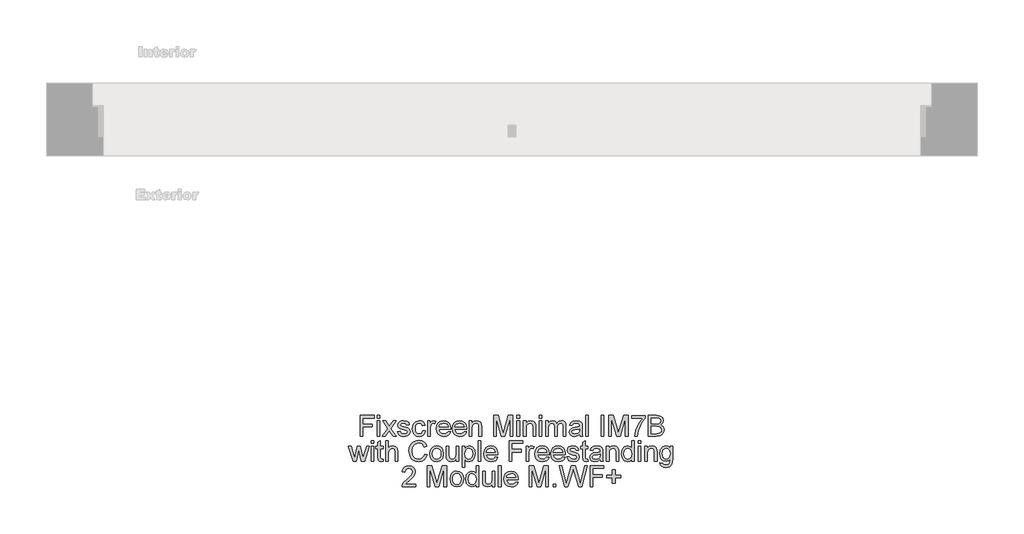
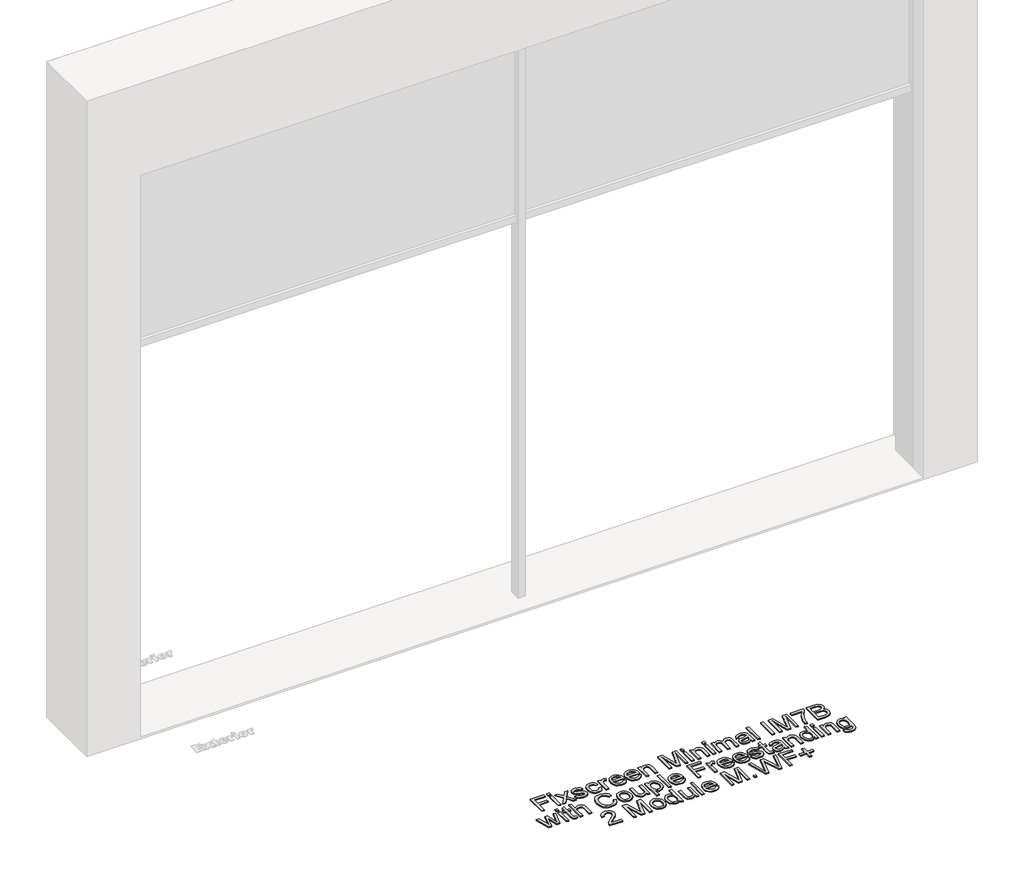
# One storey, part 10 of 14: 1 proxy.
"""IFC4 building model written with IfcOpenShell, lengths in millimetres."""

from ifc_helpers import new_model, si_unit, origin, origin_with_axes, place, context, project, spatial, polyline, outline, extrude, element, save

model = new_model("IFC4")

# Units and contexts
model_context = context("Model", 3, world=origin())
ifc_project = project(units=[si_unit("LENGTHUNIT", "METRE", prefix="MILLI")], contexts=[model_context])

# Site, building, storey
site = spatial("IfcSite", under=ifc_project)
building = spatial("IfcBuilding", under=site)
storey = spatial("IfcBuildingStorey", under=building, Name="Fixscreen Mini CF Overview Top", Elevation=0.0)

# Proxy
placement = place(None, origin())
element("IfcBuildingElementProxy", 1, Name="100mm Arial", ObjectType="100mm Arial", at=placement, inside=storey, context=model_context, shape_type="SweptSolid", body=[
    extrude(outline(polyline([(-8278.0016638, 14159.3437823), (-8278.0016638, 14259.8000924), (-8210.5075804, 14259.8000924), (-8210.5075804, 14247.2430536), (-8265.444625, 14247.2430536), (-8265.444625, 14217.4200866), (-8218.3557296, 14217.4200866), (-8218.3557296, 14204.8630478), (-8265.444625, 14204.8630478), (-8265.444625, 14159.3437823), (-8278.0016638, 14159.3437823)])), origin_with_axes(), (0.0, 0.0, 1.0), 5.0),
    extrude(outline(polyline([(-8194.811282, 14159.3437823), (-8194.811282, 14233.116385), (-8182.2542432, 14233.116385), (-8182.2542432, 14159.3437823), (-8194.811282, 14159.3437823)])), origin_with_axes(), (0.0, 0.0, 1.0), 5.0),
    extrude(outline(polyline([(-8194.811282, 14247.2430536), (-8194.811282, 14259.8000924), (-8182.2542432, 14259.8000924), (-8182.2542432, 14247.2430536), (-8194.811282, 14247.2430536)])), origin_with_axes(), (0.0, 0.0, 1.0), 5.0),
    extrude(outline(polyline([(-8171.2668343, 14159.3437823), (-8144.4359741, 14196.4262874), (-8169.6972044, 14233.116385), (-8154.5895171, 14233.116385), (-8142.4003604, 14215.4580493), (-8136.7104522, 14207.1193907), (-8131.7808334, 14213.9374703), (-8117.8994195, 14233.116385), (-8102.7917322, 14233.116385), (-8129.3282868, 14196.4262874), (-8103.7727509, 14159.3437823), (-8118.8804381, 14159.3437823), (-8134.2579055, 14181.6374312), (-8137.0783342, 14185.7086586), (-8156.159147, 14159.3437823), (-8171.2668343, 14159.3437823)])), origin_with_axes(), (0.0, 0.0, 1.0), 5.0),
    extrude(outline(polyline([(-8097.4942315, 14181.3186001), (-8084.9371927, 14182.88823), (-8079.1246572, 14173.5685527), (-8065.807329, 14170.3311912), (-8053.0050355, 14173.2987726), (-8048.8357063, 14180.2640051), (-8053.029561, 14185.9048623), (-8065.9544818, 14189.4855804), (-8084.8636163, 14195.6292097), (-8093.1164358, 14202.8029086), (-8095.9246016, 14212.9319262), (-8093.6682587, 14222.2883916), (-8087.5123667, 14229.4375651), (-8079.5293274, 14233.1531732), (-8068.7258595, 14234.6860149), (-8053.4464939, 14232.2212055), (-8043.7344093, 14225.5502787), (-8039.4179272, 14214.2808269), (-8051.974966, 14212.711197), (-8056.6961182, 14219.6396413), (-8067.7448408, 14222.1289761), (-8079.7623193, 14219.7500059), (-8083.3675629, 14214.2072505), (-8081.8715094, 14210.552956), (-8077.1871454, 14207.7815783), (-8066.3714147, 14205.1083025), (-8047.9405267, 14199.1976651), (-8039.381139, 14192.5022128), (-8036.2786675, 14181.5883802), (-8039.9206992, 14169.5709017), (-8050.4298616, 14160.8520984), (-8065.9790072, 14157.7741524), (-8078.6402792, 14159.2579431), (-8087.8802487, 14163.7093153), (-8094.0484035, 14171.0792179), (-8097.4942315, 14181.3186001)])), origin_with_axes(), (0.0, 0.0, 1.0), 5.0),
    extrude(outline(polyline([(-7975.0631035, 14186.0274896), (-7962.5060647, 14184.4578598), (-7966.0070751, 14173.2895756), (-7972.5860314, 14164.8497495), (-7981.6236657, 14159.5430517), (-7992.5007101, 14157.7741524), (-8005.8578922, 14160.2420275), (-8016.3026752, 14167.6456526), (-8023.0441127, 14179.6600654), (-8025.2912586, 14195.9603035), (-8021.4530231, 14216.8192126), (-8009.7543756, 14230.22238), (-7992.6723883, 14234.6860149), (-7982.0620585, 14233.1531732), (-7973.5793128, 14228.5546483), (-7967.4939314, 14221.1356947), (-7964.0756946, 14211.1415672), (-7976.6327333, 14209.5719373), (-7982.4575316, 14218.9774537), (-7992.5742865, 14222.1289761), (-8000.6891501, 14220.5777404), (-8007.1301507, 14215.9240331), (-8011.3332025, 14207.9164684), (-8012.7342198, 14196.30366), (-8011.3638594, 14184.5345019), (-8007.2527781, 14176.499346), (-8000.9282734, 14171.8732299), (-7992.917643, 14170.3311912), (-7981.0841055, 14174.1816894), (-7975.0631035, 14186.0274896)])), origin_with_axes(), (0.0, 0.0, 1.0), 5.0),
    extrude(outline(polyline([(-7951.5186558, 14159.3437823), (-7951.5186558, 14233.116385), (-7940.5312469, 14233.116385), (-7940.5312469, 14222.2025525), (-7932.7321486, 14232.2579937), (-7924.8839994, 14234.6860149), (-7912.2779097, 14230.8109912), (-7916.4717644, 14219.5538021), (-7925.3009323, 14222.1289761), (-7932.4010548, 14219.651904), (-7936.9260033, 14212.7847734), (-7938.961617, 14198.1185446), (-7938.961617, 14159.3437823), (-7951.5186558, 14159.3437823)])), origin_with_axes(), (0.0, 0.0, 1.0), 5.0),
    extrude(outline(polyline([(-7852.7791283, 14181.3186001), (-7840.4673442, 14179.7489703), (-7844.9033879, 14170.4722126), (-7851.9820506, 14163.537637), (-7861.5439168, 14159.2150236), (-7873.429571, 14157.7741524), (-7888.1632449, 14160.2604216), (-7899.5001417, 14167.719229), (-7906.7290229, 14179.6661968), (-7909.13865, 14195.616947), (-7906.7044974, 14212.1041917), (-7899.4020398, 14224.4343699), (-7888.2184272, 14232.1231036), (-7874.1408095, 14234.6860149), (-7860.5015845, 14232.129235), (-7849.6030804, 14224.4588954), (-7842.4569727, 14212.1532427), (-7840.0749367, 14195.6905234), (-7840.1485131, 14192.306009), (-7896.5816112, 14192.306009), (-7894.4080417, 14182.9066241), (-7889.3588614, 14175.9965739), (-7882.0717322, 14171.7475369), (-7873.1843163, 14170.3311912), (-7860.8725322, 14172.9554161), (-7852.7791283, 14181.3186001)]), holes=[polyline([(-7896.5816112, 14204.8630478), (-7852.6319755, 14204.8630478), (-7857.6596961, 14216.2428642), (-7864.9805478, 14220.6574481), (-7874.1898604, 14222.1289761), (-7889.653167, 14217.4323493), (-7894.5184063, 14211.9417105), (-7896.5816112, 14204.8630478)])]), origin_with_axes(), (0.0, 0.0, 1.0), 5.0),
    extrude(outline(polyline([(-7775.8672658, 14181.3186001), (-7763.5554817, 14179.7489703), (-7767.9915255, 14170.4722126), (-7775.0701882, 14163.537637), (-7784.6320544, 14159.2150236), (-7796.5177085, 14157.7741524), (-7811.2513824, 14160.2604216), (-7822.5882792, 14167.719229), (-7829.8171604, 14179.6661968), (-7832.2267875, 14195.616947), (-7829.792635, 14212.1041917), (-7822.4901774, 14224.4343699), (-7811.3065647, 14232.1231036), (-7797.228947, 14234.6860149), (-7783.5897221, 14232.129235), (-7772.691218, 14224.4588954), (-7765.5451102, 14212.1532427), (-7763.1630743, 14195.6905234), (-7763.2366507, 14192.306009), (-7819.6697487, 14192.306009), (-7817.4961793, 14182.9066241), (-7812.4469989, 14175.9965739), (-7805.1598697, 14171.7475369), (-7796.2724538, 14170.3311912), (-7783.9606697, 14172.9554161), (-7775.8672658, 14181.3186001)]), holes=[polyline([(-7819.6697487, 14204.8630478), (-7775.720113, 14204.8630478), (-7780.7478336, 14216.2428642), (-7788.0686854, 14220.6574481), (-7797.277998, 14222.1289761), (-7812.7413045, 14217.4323493), (-7817.6065439, 14211.9417105), (-7819.6697487, 14204.8630478)])]), origin_with_axes(), (0.0, 0.0, 1.0), 5.0),
    extrude(outline(polyline([(-7750.6060355, 14159.3437823), (-7750.6060355, 14233.116385), (-7738.0489967, 14233.116385), (-7738.0489967, 14222.8156892), (-7728.4472767, 14231.7184334), (-7715.3384149, 14234.6860149), (-7703.4803519, 14232.2947819), (-7695.386948, 14226.0162625), (-7691.6222889, 14216.7824244), (-7690.9601014, 14204.6423186), (-7690.9601014, 14159.3437823), (-7703.5171401, 14159.3437823), (-7703.5171401, 14202.9500614), (-7704.9641426, 14214.0600977), (-7710.0777024, 14219.9339469), (-7718.6984038, 14222.1289761), (-7732.3223003, 14217.1993574), (-7736.6173226, 14210.0563153), (-7738.0489967, 14198.4864265), (-7738.0489967, 14159.3437823), (-7750.6060355, 14159.3437823)])), origin_with_axes(), (0.0, 0.0, 1.0), 5.0),
    extrude(outline(polyline([(-7632.8837971, 14159.3437823), (-7632.8837971, 14259.8000924), (-7611.2768612, 14259.8000924), (-7590.7245204, 14188.9950711), (-7586.5797166, 14174.2062149), (-7582.0915563, 14190.2213444), (-7561.882572, 14259.8000924), (-7540.2756361, 14259.8000924), (-7540.2756361, 14159.3437823), (-7552.8326749, 14159.3437823), (-7552.8326749, 14247.2430536), (-7578.0693798, 14159.3437823), (-7595.0900534, 14159.3437823), (-7620.3267583, 14247.2430536), (-7620.3267583, 14159.3437823), (-7632.8837971, 14159.3437823)])), origin_with_axes(), (0.0, 0.0, 1.0), 5.0),
    extrude(outline(polyline([(-7519.8704481, 14247.2430536), (-7519.8704481, 14259.8000924), (-7507.3134094, 14259.8000924), (-7507.3134094, 14247.2430536), (-7519.8704481, 14247.2430536)])), origin_with_axes(), (0.0, 0.0, 1.0), 5.0),
    extrude(outline(polyline([(-7519.8704481, 14159.3437823), (-7519.8704481, 14233.116385), (-7507.3134094, 14233.116385), (-7507.3134094, 14159.3437823), (-7519.8704481, 14159.3437823)])), origin_with_axes(), (0.0, 0.0, 1.0), 5.0),
    extrude(outline(polyline([(-7488.4778512, 14159.3437823), (-7488.4778512, 14233.116385), (-7475.9208124, 14233.116385), (-7475.9208124, 14222.8156892), (-7466.3190924, 14231.7184334), (-7453.2102306, 14234.6860149), (-7441.3521676, 14232.2947819), (-7433.2587637, 14226.0162625), (-7429.4941047, 14216.7824244), (-7428.8319171, 14204.6423186), (-7428.8319171, 14159.3437823), (-7441.3889558, 14159.3437823), (-7441.3889558, 14202.9500614), (-7442.8359583, 14214.0600977), (-7447.9495181, 14219.9339469), (-7456.5702195, 14222.1289761), (-7470.1941161, 14217.1993574), (-7474.4891383, 14210.0563153), (-7475.9208124, 14198.4864265), (-7475.9208124, 14159.3437823), (-7488.4778512, 14159.3437823)])), origin_with_axes(), (0.0, 0.0, 1.0), 5.0),
    extrude(outline(polyline([(-7411.5659888, 14159.3437823), (-7411.5659888, 14233.116385), (-7399.00895, 14233.116385), (-7399.00895, 14159.3437823), (-7411.5659888, 14159.3437823)])), origin_with_axes(), (0.0, 0.0, 1.0), 5.0),
    extrude(outline(polyline([(-7411.5659888, 14247.2430536), (-7411.5659888, 14259.8000924), (-7399.00895, 14259.8000924), (-7399.00895, 14247.2430536), (-7411.5659888, 14247.2430536)])), origin_with_axes(), (0.0, 0.0, 1.0), 5.0),
    extrude(outline(polyline([(-7380.1733918, 14159.3437823), (-7380.1733918, 14233.116385), (-7367.6163531, 14233.116385), (-7367.6163531, 14220.9762792), (-7358.9833889, 14230.9213558), (-7346.6961303, 14234.6860149), (-7334.114566, 14230.8477794), (-7327.1983845, 14220.0933624), (-7317.4004607, 14231.0378518), (-7305.027363, 14234.6860149), (-7295.5881241, 14233.1685016), (-7288.6075632, 14228.615962), (-7284.2941468, 14220.9057685), (-7282.8563414, 14209.9152939), (-7282.8563414, 14159.3437823), (-7295.4133801, 14159.3437823), (-7295.4133801, 14204.5196913), (-7296.5783398, 14215.0043281), (-7300.79672, 14220.1669388), (-7307.9704189, 14222.1289761), (-7320.3189912, 14217.1012555), (-7324.0070082, 14210.5590874), (-7325.2363472, 14200.9880241), (-7325.2363472, 14159.3437823), (-7337.793386, 14159.3437823), (-7337.793386, 14205.9176428), (-7340.6996538, 14218.0822742), (-7350.2277974, 14222.1289761), (-7359.5229492, 14219.4311748), (-7365.7033667, 14211.5339746), (-7367.6163531, 14196.5489147), (-7367.6163531, 14159.3437823), (-7380.1733918, 14159.3437823)])), origin_with_axes(), (0.0, 0.0, 1.0), 5.0),
    extrude(outline(polyline([(-7216.9318878, 14168.7615613), (-7229.1087819, 14160.2512245), (-7242.5610002, 14157.7741524), (-7253.0548341, 14159.2640745), (-7260.7956844, 14163.7338407), (-7265.5689533, 14170.5212635), (-7267.1600429, 14178.9641553), (-7264.7565472, 14188.8969692), (-7258.4412396, 14196.1074563), (-7249.6488599, 14200.2277347), (-7238.7840784, 14202.1161956), (-7217.0054642, 14206.4326776), (-7216.9318878, 14209.2285808), (-7220.3899786, 14218.4992071), (-7234.2713925, 14222.1289761), (-7246.9755841, 14219.7132177), (-7253.0333743, 14211.1415672), (-7265.5904131, 14212.711197), (-7260.1580223, 14224.9739302), (-7249.2196643, 14232.1598918), (-7232.6527118, 14234.6860149), (-7217.4346599, 14232.4541974), (-7208.8384839, 14226.8501284), (-7204.9879857, 14218.3275288), (-7204.3748491, 14207.3401199), (-7204.3748491, 14191.7173978), (-7203.7371869, 14169.9019955), (-7201.2355894, 14159.3437823), (-7213.7926281, 14159.3437823), (-7216.9318878, 14168.7615613)]), holes=[polyline([(-7216.9318878, 14193.8756389), (-7237.189923, 14190.0251407), (-7247.993391, 14187.989527), (-7252.8862215, 14184.678589), (-7254.6030041, 14179.8470721), (-7250.8628705, 14173.0535179), (-7239.8877243, 14170.3311912), (-7227.1835328, 14173.3355608), (-7218.992027, 14180.6073616), (-7217.0054642, 14190.3194463), (-7216.9318878, 14193.8756389)])]), origin_with_axes(), (0.0, 0.0, 1.0), 5.0),
    extrude(outline(polyline([(-7187.1089208, 14159.3437823), (-7187.1089208, 14259.8000924), (-7174.551882, 14259.8000924), (-7174.551882, 14159.3437823), (-7187.1089208, 14159.3437823)])), origin_with_axes(), (0.0, 0.0, 1.0), 5.0),
    extrude(outline(polyline([(-7113.336318, 14159.3437823), (-7113.336318, 14259.8000924), (-7100.7792792, 14259.8000924), (-7100.7792792, 14159.3437823), (-7113.336318, 14159.3437823)])), origin_with_axes(), (0.0, 0.0, 1.0), 5.0),
    extrude(outline(polyline([(-7075.6652017, 14159.3437823), (-7075.6652017, 14259.8000924), (-7054.0582658, 14259.8000924), (-7033.505925, 14188.9950711), (-7029.3611212, 14174.2062149), (-7024.8729609, 14190.2213444), (-7004.6639766, 14259.8000924), (-6983.0570408, 14259.8000924), (-6983.0570408, 14159.3437823), (-6995.6140795, 14159.3437823), (-6995.6140795, 14247.2430536), (-7020.8507844, 14159.3437823), (-7037.8714581, 14159.3437823), (-7063.1081629, 14247.2430536), (-7063.1081629, 14159.3437823), (-7075.6652017, 14159.3437823)])), origin_with_axes(), (0.0, 0.0, 1.0), 5.0),
    extrude(outline(polyline([(-6965.7911125, 14245.6734238), (-6965.7911125, 14258.2304626), (-6899.8666589, 14258.2304626), (-6899.8666589, 14248.0769195), (-6918.567327, 14221.0621183), (-6932.8779366, 14186.6406263), (-6937.5377752, 14159.3437823), (-6950.094814, 14159.3437823), (-6945.1038816, 14187.6706959), (-6931.4064087, 14219.6886922), (-6912.4236977, 14245.6734238), (-6965.7911125, 14245.6734238)])), origin_with_axes(), (0.0, 0.0, 1.0), 5.0),
    extrude(outline(polyline([(-6884.1703605, 14159.3437823), (-6884.1703605, 14259.8000924), (-6845.8370566, 14259.8000924), (-6827.0628121, 14256.8447737), (-6815.9773013, 14247.7580884), (-6811.9673875, 14234.9067441), (-6815.3396392, 14223.1713084), (-6825.5299704, 14214.2808269), (-6813.1568727, 14204.9120987), (-6808.8281279, 14189.2893767), (-6811.7834466, 14175.7881074), (-6819.1042983, 14166.1741246), (-6830.0303935, 14161.0728276), (-6846.1313622, 14159.3437823), (-6884.1703605, 14159.3437823)]), holes=[polyline([(-6871.6133217, 14218.9897164), (-6848.6820107, 14218.9897164), (-6835.291106, 14220.0688369), (-6827.2344903, 14224.7164128), (-6824.5244263, 14232.8956558), (-6827.0505494, 14241.0871616), (-6834.2855619, 14245.9309412), (-6850.4233188, 14247.2430536), (-6871.6133217, 14247.2430536), (-6871.6133217, 14218.9897164)]), polyline([(-6871.6133217, 14171.900821), (-6845.861582, 14171.900821), (-6836.5419048, 14172.3913304), (-6828.6569674, 14175.1259199), (-6823.4330431, 14180.7054634), (-6821.3851666, 14189.1667493), (-6823.7886623, 14198.9278849), (-6831.5754979, 14204.7526832), (-6847.0878554, 14206.4326776), (-6871.6133217, 14206.4326776), (-6871.6133217, 14171.900821)])]), origin_with_axes(), (0.0, 0.0, 1.0), 5.0),
    extrude(outline(polyline([(-8312.0675365, 14037.3689644), (-8334.5083383, 14111.1415672), (-8321.4607902, 14111.1415672), (-8308.7320731, 14068.0993737), (-8304.9306258, 14052.7219063), (-8301.8158916, 14067.535288), (-8291.686874, 14111.1415672), (-8276.7263395, 14111.1415672), (-8266.6463729, 14067.6579154), (-8263.8749952, 14054.2424853), (-8259.9018696, 14068.3936793), (-8247.1486271, 14111.1415672), (-8234.0520281, 14111.1415672), (-8256.6645081, 14037.3689644), (-8271.8457717, 14037.3689644), (-8281.48428, 14080.631887), (-8284.2801832, 14094.1208935), (-8296.7145946, 14037.3689644), (-8312.0675365, 14037.3689644)])), origin_with_axes(), (0.0, 0.0, 1.0), 5.0),
    extrude(outline(polyline([(-8225.419064, 14037.3689644), (-8225.419064, 14111.1415672), (-8212.8620252, 14111.1415672), (-8212.8620252, 14037.3689644), (-8225.419064, 14037.3689644)])), origin_with_axes(), (0.0, 0.0, 1.0), 5.0),
    extrude(outline(polyline([(-8225.419064, 14125.2682358), (-8225.419064, 14137.8252746), (-8212.8620252, 14137.8252746), (-8212.8620252, 14125.2682358), (-8225.419064, 14125.2682358)])), origin_with_axes(), (0.0, 0.0, 1.0), 5.0),
    extrude(outline(polyline([(-8167.3427596, 14047.8413385), (-8165.7731298, 14037.0010824), (-8175.1663834, 14035.7993346), (-8185.6878085, 14037.8839992), (-8190.9362583, 14043.3531782), (-8192.4568372, 14057.6024741), (-8192.4568372, 14098.5845284), (-8201.8746163, 14098.5845284), (-8201.8746163, 14111.1415672), (-8192.4568372, 14111.1415672), (-8192.4568372, 14129.0696831), (-8179.8997984, 14136.4518484), (-8179.8997984, 14111.1415672), (-8167.3427596, 14111.1415672), (-8167.3427596, 14098.5845284), (-8179.8997984, 14098.5845284), (-8179.8997984, 14057.9703561), (-8179.2376108, 14051.495633), (-8177.0916325, 14049.2025019), (-8172.8119386, 14048.3563733), (-8167.3427596, 14047.8413385)])), origin_with_axes(), (0.0, 0.0, 1.0), 5.0),
    extrude(outline(polyline([(-8154.7857209, 14037.3689644), (-8154.7857209, 14137.8252746), (-8142.2286821, 14137.8252746), (-8142.2286821, 14100.8899222), (-8132.4368897, 14109.7558783), (-8120.3764916, 14112.711197), (-8106.2743484, 14109.4860982), (-8097.7149607, 14100.5710912), (-8095.1397867, 14084.0654523), (-8095.1397867, 14037.3689644), (-8107.6968255, 14037.3689644), (-8107.6968255, 14082.7656026), (-8111.6944765, 14096.0093544), (-8123.025242, 14100.1541583), (-8133.3136751, 14097.3582551), (-8140.1808057, 14089.779886), (-8142.2286821, 14076.5606596), (-8142.2286821, 14037.3689644), (-8154.7857209, 14037.3689644)])), origin_with_axes(), (0.0, 0.0, 1.0), 5.0),
    extrude(outline(polyline([(-7966.4301393, 14073.0780434), (-7953.8731006, 14069.8406819), (-7959.667242, 14055.2081755), (-7968.7600586, 14044.5181379), (-7980.7039608, 14037.9790354), (-7995.0513586, 14035.7993346), (-8009.6164199, 14037.4486722), (-8021.183243, 14042.396685), (-8030.049199, 14050.4716948), (-8036.5116594, 14061.5020233), (-8041.772372, 14088.3574089), (-8040.2855156, 14103.0052437), (-8035.8249464, 14115.654253), (-8028.6236563, 14125.9028322), (-8018.9146373, 14133.349377), (-8007.3999309, 14137.8835225), (-7994.7815784, 14139.3949044), (-7981.0135948, 14137.4389985), (-7969.6307127, 14131.5712806), (-7960.9885515, 14122.1535016), (-7955.4427304, 14109.5474119), (-7967.9997692, 14106.555305), (-7978.3004651, 14121.994086), (-7995.2720878, 14126.8378656), (-8014.9169863, 14121.4667885), (-8026.0147598, 14107.0458143), (-8029.2153332, 14088.3819344), (-8025.4261486, 14066.7504731), (-8013.6293993, 14052.9303728), (-7996.3021574, 14048.3563733), (-7985.8205862, 14049.9137405), (-7977.0864545, 14054.5858418), (-7970.4921697, 14062.3236264), (-7966.4301393, 14073.0780434)])), origin_with_axes(), (0.0, 0.0, 1.0), 5.0),
    extrude(outline(polyline([(-7941.3160618, 14074.2552658), (-7938.5998664, 14092.0423603), (-7930.4512802, 14104.5442167), (-7920.3835763, 14110.669452), (-7908.3293096, 14112.711197), (-7895.1376744, 14110.2249279), (-7884.6009209, 14102.7661204), (-7877.6939364, 14090.9233859), (-7875.3916083, 14075.2853354), (-7879.4628357, 14052.9426355), (-7891.3208987, 14040.2997576), (-7908.3293096, 14035.7993346), (-7921.6803603, 14038.2764067), (-7932.2048511, 14045.707623), (-7939.0382591, 14057.7986779), (-7941.3160618, 14074.2552658)]), holes=[polyline([(-7928.759023, 14074.2797913), (-7927.3058892, 14062.9153033), (-7922.9464875, 14054.8188337), (-7916.3859253, 14049.9719884), (-7908.3293096, 14048.3563733), (-7900.3094821, 14049.9811855), (-7893.7611826, 14054.8556219), (-7889.4017809, 14063.0593904), (-7887.948647, 14074.6721987), (-7889.410978, 14085.7055929), (-7893.7979708, 14093.6916979), (-7900.3554673, 14098.5385432), (-7908.3293096, 14100.1541583), (-7916.3859253, 14098.5446745), (-7922.9464875, 14093.7162233), (-7927.3058892, 14085.6381479), (-7928.759023, 14074.2797913)])]), origin_with_axes(), (0.0, 0.0, 1.0), 5.0),
    extrude(outline(polyline([(-7814.1760443, 14037.3689644), (-7814.1760443, 14050.0486305), (-7824.0107563, 14039.3616586), (-7836.8375752, 14035.7993346), (-7848.6465872, 14038.3009321), (-7856.7890421, 14044.5794515), (-7860.5291757, 14053.8255523), (-7861.2649397, 14065.4996743), (-7861.2649397, 14111.1415672), (-7848.7079009, 14111.1415672), (-7848.7079009, 14071.4103117), (-7847.9476114, 14058.6080183), (-7842.9812045, 14051.0909628), (-7833.6247391, 14048.3563733), (-7823.1401022, 14051.1522765), (-7816.211658, 14058.7674338), (-7814.1760443, 14072.7592124), (-7814.1760443, 14111.1415672), (-7801.6190055, 14111.1415672), (-7801.6190055, 14037.3689644), (-7814.1760443, 14037.3689644)])), origin_with_axes(), (0.0, 0.0, 1.0), 5.0),
    extrude(outline(polyline([(-7784.3530772, 14009.1156272), (-7784.3530772, 14111.1415672), (-7771.7960384, 14111.1415672), (-7771.7960384, 14098.8297831), (-7763.1140233, 14109.2408435), (-7751.3908504, 14112.711197), (-7735.4738228, 14107.8551547), (-7725.075025, 14094.1699445), (-7721.5678834, 14074.8193515), (-7725.5287462, 14054.4754772), (-7737.0311899, 14040.6185887), (-7752.9114293, 14035.7993346), (-7763.8375246, 14039.0244334), (-7771.7960384, 14047.179151), (-7771.7960384, 14009.1156272), (-7784.3530772, 14009.1156272)]), holes=[polyline([(-7771.7960384, 14073.6666546), (-7770.4379407, 14062.4094656), (-7766.3636476, 14054.5367909), (-7760.3518427, 14049.9014777), (-7753.1812095, 14048.3563733), (-7745.8940803, 14049.95666), (-7739.7289912, 14054.7575201), (-7735.5259394, 14062.918369), (-7734.1249221, 14074.5986223), (-7735.4922169, 14085.7944977), (-7739.5941011, 14093.777537), (-7745.596709, 14098.5600029), (-7752.6661747, 14100.1541583), (-7759.7632315, 14098.4588354), (-7765.9957656, 14093.3728668), (-7770.3459702, 14085.055668), (-7771.7960384, 14073.6666546)])]), origin_with_axes(), (0.0, 0.0, 1.0), 5.0),
    extrude(outline(polyline([(-7707.4412147, 14037.3689644), (-7707.4412147, 14137.8252746), (-7694.884176, 14137.8252746), (-7694.884176, 14037.3689644), (-7707.4412147, 14037.3689644)])), origin_with_axes(), (0.0, 0.0, 1.0), 5.0),
    extrude(outline(polyline([(-7624.3979857, 14059.3437823), (-7612.0862016, 14057.7741524), (-7616.5222453, 14048.4973948), (-7623.600908, 14041.5628192), (-7633.1627742, 14037.2402057), (-7645.0484284, 14035.7993346), (-7659.7821023, 14038.2856037), (-7671.1189991, 14045.7444112), (-7678.3478803, 14057.691379), (-7680.7575074, 14073.6421291), (-7678.3233548, 14090.1293739), (-7671.0208972, 14102.4595521), (-7659.8372846, 14110.1482858), (-7645.7596669, 14112.711197), (-7632.1204419, 14110.1544172), (-7621.2219378, 14102.4840776), (-7614.07583, 14090.1784248), (-7611.6937941, 14073.7157055), (-7611.7673705, 14070.3311912), (-7668.2004686, 14070.3311912), (-7666.0268991, 14060.9318062), (-7660.9777188, 14054.0217561), (-7653.6905896, 14049.772719), (-7644.8031737, 14048.3563733), (-7632.4913896, 14050.9805982), (-7624.3979857, 14059.3437823)]), holes=[polyline([(-7668.2004686, 14082.88823), (-7624.2508329, 14082.88823), (-7629.2785535, 14094.2680463), (-7636.5994052, 14098.6826303), (-7645.8087178, 14100.1541583), (-7661.2720243, 14095.4575315), (-7666.1372637, 14089.9668927), (-7668.2004686, 14082.88823)])]), origin_with_axes(), (0.0, 0.0, 1.0), 5.0),
    extrude(outline(polyline([(-7558.3263794, 14037.3689644), (-7558.3263794, 14137.8252746), (-7490.832296, 14137.8252746), (-7490.832296, 14125.2682358), (-7545.7693406, 14125.2682358), (-7545.7693406, 14095.4452687), (-7498.6804452, 14095.4452687), (-7498.6804452, 14082.88823), (-7545.7693406, 14082.88823), (-7545.7693406, 14037.3689644), (-7558.3263794, 14037.3689644)])), origin_with_axes(), (0.0, 0.0, 1.0), 5.0),
    extrude(outline(polyline([(-7475.1359975, 14037.3689644), (-7475.1359975, 14111.1415672), (-7464.1485886, 14111.1415672), (-7464.1485886, 14100.2277347), (-7456.3494903, 14110.2831759), (-7448.5013411, 14112.711197), (-7435.8952514, 14108.8361733), (-7440.0891061, 14097.5789843), (-7448.918274, 14100.1541583), (-7456.0183965, 14097.6770862), (-7460.543345, 14090.8099556), (-7462.5789588, 14076.1437267), (-7462.5789588, 14037.3689644), (-7475.1359975, 14037.3689644)])), origin_with_axes(), (0.0, 0.0, 1.0), 5.0),
    extrude(outline(polyline([(-7376.39647, 14059.3437823), (-7364.0846859, 14057.7741524), (-7368.5207296, 14048.4973948), (-7375.5993924, 14041.5628192), (-7385.1612586, 14037.2402057), (-7397.0469127, 14035.7993346), (-7411.7805866, 14038.2856037), (-7423.1174834, 14045.7444112), (-7430.3463646, 14057.691379), (-7432.7559917, 14073.6421291), (-7430.3218391, 14090.1293739), (-7423.0193815, 14102.4595521), (-7411.8357689, 14110.1482858), (-7397.7581512, 14112.711197), (-7384.1189262, 14110.1544172), (-7373.2204221, 14102.4840776), (-7366.0743144, 14090.1784248), (-7363.6922784, 14073.7157055), (-7363.7658548, 14070.3311912), (-7420.1989529, 14070.3311912), (-7418.0253835, 14060.9318062), (-7412.9762031, 14054.0217561), (-7405.6890739, 14049.772719), (-7396.801658, 14048.3563733), (-7384.4898739, 14050.9805982), (-7376.39647, 14059.3437823)]), holes=[polyline([(-7420.1989529, 14082.88823), (-7376.2493172, 14082.88823), (-7381.2770378, 14094.2680463), (-7388.5978895, 14098.6826303), (-7397.8072021, 14100.1541583), (-7413.2705087, 14095.4575315), (-7418.1357481, 14089.9668927), (-7420.1989529, 14082.88823)])]), origin_with_axes(), (0.0, 0.0, 1.0), 5.0),
    extrude(outline(polyline([(-7299.4846076, 14059.3437823), (-7287.1728235, 14057.7741524), (-7291.6088672, 14048.4973948), (-7298.6875299, 14041.5628192), (-7308.2493961, 14037.2402057), (-7320.1350502, 14035.7993346), (-7334.8687241, 14038.2856037), (-7346.2056209, 14045.7444112), (-7353.4345022, 14057.691379), (-7355.8441292, 14073.6421291), (-7353.4099767, 14090.1293739), (-7346.1075191, 14102.4595521), (-7334.9239064, 14110.1482858), (-7320.8462887, 14112.711197), (-7307.2070638, 14110.1544172), (-7296.3085597, 14102.4840776), (-7289.1624519, 14090.1784248), (-7286.780416, 14073.7157055), (-7286.8539924, 14070.3311912), (-7343.2870904, 14070.3311912), (-7341.113521, 14060.9318062), (-7336.0643406, 14054.0217561), (-7328.7772114, 14049.772719), (-7319.8897956, 14048.3563733), (-7307.5780115, 14050.9805982), (-7299.4846076, 14059.3437823)]), holes=[polyline([(-7343.2870904, 14082.88823), (-7299.3374548, 14082.88823), (-7304.3651754, 14094.2680463), (-7311.6860271, 14098.6826303), (-7320.8953397, 14100.1541583), (-7336.3586462, 14095.4575315), (-7341.2238856, 14089.9668927), (-7343.2870904, 14082.88823)])]), origin_with_axes(), (0.0, 0.0, 1.0), 5.0),
    extrude(outline(polyline([(-7278.9322668, 14059.3437823), (-7266.375228, 14060.9134121), (-7260.5626925, 14051.5937349), (-7247.2453642, 14048.3563733), (-7234.4430708, 14051.3239548), (-7230.2737415, 14058.2891872), (-7234.4675963, 14063.9300445), (-7247.392517, 14067.5107626), (-7266.3016516, 14073.6543919), (-7274.554471, 14080.8280908), (-7277.3626369, 14090.9571084), (-7275.106294, 14100.3135738), (-7268.950402, 14107.4627472), (-7260.9673627, 14111.1783554), (-7250.1638947, 14112.711197), (-7234.8845292, 14110.2463877), (-7225.1724445, 14103.5754608), (-7220.8559625, 14092.306009), (-7233.4130012, 14090.7363792), (-7238.1341535, 14097.6648234), (-7249.1828761, 14100.1541583), (-7261.2003546, 14097.775188), (-7264.8055981, 14092.2324326), (-7263.3095447, 14088.5781381), (-7258.6251806, 14085.8067604), (-7247.80945, 14083.1334846), (-7229.378562, 14077.2228472), (-7220.8191743, 14070.5273949), (-7217.7167028, 14059.6135624), (-7221.3587345, 14047.5960839), (-7231.8678968, 14038.8772806), (-7247.4170425, 14035.7993346), (-7260.0783145, 14037.2831253), (-7269.318284, 14041.7344974), (-7275.4864387, 14049.1044001), (-7278.9322668, 14059.3437823)])), origin_with_axes(), (0.0, 0.0, 1.0), 5.0),
    extrude(outline(polyline([(-7176.9063268, 14047.8413385), (-7175.3366969, 14037.0010824), (-7184.7299505, 14035.7993346), (-7195.2513756, 14037.8839992), (-7200.4998254, 14043.3531782), (-7202.0204043, 14057.6024741), (-7202.0204043, 14098.5845284), (-7211.4381834, 14098.5845284), (-7211.4381834, 14111.1415672), (-7202.0204043, 14111.1415672), (-7202.0204043, 14129.0696831), (-7189.4633655, 14136.4518484), (-7189.4633655, 14111.1415672), (-7176.9063268, 14111.1415672), (-7176.9063268, 14098.5845284), (-7189.4633655, 14098.5845284), (-7189.4633655, 14057.9703561), (-7188.8011779, 14051.495633), (-7186.6551996, 14049.2025019), (-7182.3755058, 14048.3563733), (-7176.9063268, 14047.8413385)])), origin_with_axes(), (0.0, 0.0, 1.0), 5.0),
    extrude(outline(polyline([(-7117.2603926, 14046.7867435), (-7129.4372867, 14038.2764067), (-7142.8895049, 14035.7993346), (-7153.3833389, 14037.2892566), (-7161.1241892, 14041.7590229), (-7165.8974581, 14048.5464457), (-7167.4885477, 14056.9893375), (-7165.085052, 14066.9221514), (-7158.7697444, 14074.1326385), (-7149.9773647, 14078.2529168), (-7139.1125831, 14080.1413777), (-7117.333969, 14084.4578598), (-7117.2603926, 14087.253763), (-7120.7184834, 14096.5243892), (-7134.5998973, 14100.1541583), (-7147.3040889, 14097.7383998), (-7153.3618791, 14089.1667493), (-7165.9189178, 14090.7363792), (-7160.486527, 14102.9991124), (-7149.5481691, 14110.185074), (-7132.9812165, 14112.711197), (-7117.7631647, 14110.4793796), (-7109.1669887, 14104.8753105), (-7105.3164905, 14096.352711), (-7104.7033538, 14085.3653021), (-7104.7033538, 14069.74258), (-7104.0656917, 14047.9271777), (-7101.5640942, 14037.3689644), (-7114.1211329, 14037.3689644), (-7117.2603926, 14046.7867435)]), holes=[polyline([(-7117.2603926, 14071.900821), (-7137.5184278, 14068.0503228), (-7148.3218957, 14066.0147091), (-7153.2147263, 14062.7037711), (-7154.9315089, 14057.8722543), (-7151.1913753, 14051.0787001), (-7140.2162291, 14048.3563733), (-7127.5120375, 14051.360743), (-7119.3205318, 14058.6325437), (-7117.333969, 14068.3446284), (-7117.2603926, 14071.900821)])]), origin_with_axes(), (0.0, 0.0, 1.0), 5.0),
    extrude(outline(polyline([(-7087.4374255, 14037.3689644), (-7087.4374255, 14111.1415672), (-7074.8803868, 14111.1415672), (-7074.8803868, 14100.8408713), (-7065.2786667, 14109.7436156), (-7052.1698049, 14112.711197), (-7040.311742, 14110.3199641), (-7032.2183381, 14104.0414447), (-7028.453679, 14094.8076066), (-7027.7914914, 14082.6675008), (-7027.7914914, 14037.3689644), (-7040.3485302, 14037.3689644), (-7040.3485302, 14080.9752436), (-7041.7955327, 14092.0852798), (-7046.9090924, 14097.959129), (-7055.5297938, 14100.1541583), (-7069.1536904, 14095.2245395), (-7073.4487127, 14088.0814974), (-7074.8803868, 14076.5116087), (-7074.8803868, 14037.3689644), (-7087.4374255, 14037.3689644)])), origin_with_axes(), (0.0, 0.0, 1.0), 5.0),
    extrude(outline(polyline([(-6965.0062975, 14037.3689644), (-6965.0062975, 14049.2147647), (-6973.3142993, 14039.1531921), (-6984.7983489, 14035.7993346), (-7000.3474945, 14040.6553769), (-7011.3349035, 14054.2056971), (-7015.2344526, 14074.1816894), (-7011.6414718, 14094.1699445), (-7000.8747921, 14107.9287311), (-6984.8473998, 14112.711197), (-6973.2713797, 14109.2898945), (-6965.0062975, 14100.3994129), (-6965.0062975, 14137.8252746), (-6952.4492588, 14137.8252746), (-6952.4492588, 14037.3689644), (-6965.0062975, 14037.3689644)]), holes=[polyline([(-7002.6774138, 14074.2307403), (-7001.2610682, 14062.8723837), (-6997.0120311, 14054.7943083), (-6990.837745, 14049.9658571), (-6983.645652, 14048.3563733), (-6976.4566246, 14049.8922807), (-6970.4386883, 14054.5000027), (-6966.3643952, 14062.2653784), (-6965.0062975, 14073.2742471), (-6966.3889207, 14085.3101198), (-6970.5367902, 14093.6549097), (-6976.7080107, 14098.5293461), (-6984.1606868, 14100.1541583), (-6991.4263562, 14098.5937255), (-6997.3799131, 14093.9124271), (-7001.3530387, 14085.8711398), (-7002.6774138, 14074.2307403)])]), origin_with_axes(), (0.0, 0.0, 1.0), 5.0),
    extrude(outline(polyline([(-6933.6137006, 14037.3689644), (-6933.6137006, 14111.1415672), (-6921.0566619, 14111.1415672), (-6921.0566619, 14037.3689644), (-6933.6137006, 14037.3689644)])), origin_with_axes(), (0.0, 0.0, 1.0), 5.0),
    extrude(outline(polyline([(-6933.6137006, 14125.2682358), (-6933.6137006, 14137.8252746), (-6921.0566619, 14137.8252746), (-6921.0566619, 14125.2682358), (-6933.6137006, 14125.2682358)])), origin_with_axes(), (0.0, 0.0, 1.0), 5.0),
    extrude(outline(polyline([(-6902.2211037, 14037.3689644), (-6902.2211037, 14111.1415672), (-6889.6640649, 14111.1415672), (-6889.6640649, 14100.8408713), (-6880.0623449, 14109.7436156), (-6866.9534831, 14112.711197), (-6855.0954201, 14110.3199641), (-6847.0020162, 14104.0414447), (-6843.2373571, 14094.8076066), (-6842.5751695, 14082.6675008), (-6842.5751695, 14037.3689644), (-6855.1322083, 14037.3689644), (-6855.1322083, 14080.9752436), (-6856.5792108, 14092.0852798), (-6861.6927706, 14097.959129), (-6870.313472, 14100.1541583), (-6883.9373685, 14095.2245395), (-6888.2323908, 14088.0814974), (-6889.6640649, 14076.5116087), (-6889.6640649, 14037.3689644), (-6902.2211037, 14037.3689644)])), origin_with_axes(), (0.0, 0.0, 1.0), 5.0),
    extrude(outline(polyline([(-6828.4485009, 14031.090445), (-6815.8914622, 14029.5208152), (-6811.8202348, 14022.8989393), (-6799.631078, 14020.1030361), (-6786.7797336, 14023.2668213), (-6780.648367, 14032.1450401), (-6779.7899757, 14046.7867435), (-6788.6314063, 14039.7234092), (-6799.4103488, 14037.3689644), (-6812.3567293, 14040.1096853), (-6822.010566, 14048.3318479), (-6828.0162396, 14060.3861146), (-6830.0181308, 14074.6231478), (-6826.42515, 14094.0841053), (-6816.0263522, 14107.8551547), (-6800.0234854, 14112.711197), (-6788.8214787, 14109.9643448), (-6779.7899757, 14101.7237881), (-6779.7899757, 14111.1415672), (-6767.2329369, 14111.1415672), (-6767.2329369, 14047.4489311), (-6770.6665022, 14023.0583548), (-6781.5435465, 14011.7153266), (-6799.8763326, 14007.5459973), (-6811.5596517, 14009.0144596), (-6820.7597672, 14013.4198465), (-6826.6612076, 14020.7744207), (-6828.4485009, 14031.090445)]), holes=[polyline([(-6817.461092, 14075.4815391), (-6816.1213884, 14063.963767), (-6812.1022776, 14056.045107), (-6806.0598158, 14051.4557791), (-6798.6500593, 14049.9260032), (-6791.2954851, 14051.4465821), (-6785.2223665, 14056.0083188), (-6781.1480734, 14063.8258112), (-6779.7899757, 14075.1136571), (-6781.1879273, 14085.9998985), (-6785.381782, 14093.8388507), (-6791.5438055, 14098.5753314), (-6798.8462631, 14100.1541583), (-6806.0168963, 14098.5998568), (-6812.0287012, 14093.9369525), (-6816.1029943, 14086.2144963), (-6817.461092, 14075.4815391)])]), origin_with_axes(), (0.0, 0.0, 1.0), 5.0),
    extrude(outline(polyline([(-8009.5949601, 13927.9511853), (-8009.5949601, 13915.3941466), (-8075.5194136, 13915.3941466), (-8074.170513, 13924.0516362), (-8066.543093, 13937.3812271), (-8050.822269, 13951.9370914), (-8029.1417568, 13972.8573142), (-8023.7216287, 13987.0820847), (-8028.8351885, 13998.5967911), (-8042.1893049, 14003.293418), (-8056.107507, 13998.7071557), (-8061.392745, 13986.0274896), (-8073.9497838, 13987.5971195), (-8070.9055603, 13999.7433567), (-8064.3235383, 14008.6154441), (-8054.5470742, 14014.0417036), (-8041.9195248, 14015.8504567), (-8029.2000048, 14013.8393685), (-8019.4419349, 14007.8061038), (-8013.2339262, 13998.7929949), (-8011.16459, 13987.8423742), (-8013.3964074, 13975.9352602), (-8020.815361, 13963.6234761), (-8038.8047905, 13946.4188615), (-8053.2502902, 13934.3400693), (-8058.9156729, 13927.9511853), (-8009.5949601, 13927.9511853)])), origin_with_axes(), (0.0, 0.0, 1.0), 5.0),
    extrude(outline(polyline([(-7953.0882857, 13915.3941466), (-7953.0882857, 14015.8504567), (-7931.4813498, 14015.8504567), (-7910.929009, 13945.0454354), (-7906.7842052, 13930.2565792), (-7902.2960449, 13946.2717087), (-7882.0870606, 14015.8504567), (-7860.4801247, 14015.8504567), (-7860.4801247, 13915.3941466), (-7873.0371635, 13915.3941466), (-7873.0371635, 14003.293418), (-7898.2738684, 13915.3941466), (-7915.294542, 13915.3941466), (-7940.5312469, 14003.293418), (-7940.5312469, 13915.3941466), (-7953.0882857, 13915.3941466)])), origin_with_axes(), (0.0, 0.0, 1.0), 5.0),
    extrude(outline(polyline([(-7843.2141964, 13952.280448), (-7840.498001, 13970.0675424), (-7832.3494148, 13982.5693989), (-7822.2817109, 13988.6946341), (-7810.2274442, 13990.7363792), (-7797.035809, 13988.25011), (-7786.4990555, 13980.7913026), (-7779.592071, 13968.948568), (-7777.2897429, 13953.3105175), (-7781.3609703, 13930.9678177), (-7793.2190333, 13918.3249398), (-7810.2274442, 13913.8245167), (-7823.5784949, 13916.3015888), (-7834.1029857, 13923.7328051), (-7840.9363937, 13935.82386), (-7843.2141964, 13952.280448)]), holes=[polyline([(-7830.6571577, 13952.3049734), (-7829.2040238, 13940.9404855), (-7824.8446221, 13932.8440159), (-7818.2840599, 13927.9971706), (-7810.2274442, 13926.3815555), (-7802.2076167, 13928.0063676), (-7795.6593172, 13932.8808041), (-7791.2999155, 13941.0845726), (-7789.8467817, 13952.6973809), (-7791.3091126, 13963.7307751), (-7795.6961054, 13971.71688), (-7802.2536019, 13976.5637253), (-7810.2274442, 13978.1793404), (-7818.2840599, 13976.5698567), (-7824.8446221, 13971.7414055), (-7829.2040238, 13963.66333), (-7830.6571577, 13952.3049734)])]), origin_with_axes(), (0.0, 0.0, 1.0), 5.0),
    extrude(outline(polyline([(-7717.6438087, 13915.3941466), (-7717.6438087, 13927.2399468), (-7725.9518105, 13917.1783742), (-7737.4358601, 13913.8245167), (-7752.9850057, 13918.6805591), (-7763.9724147, 13932.2308792), (-7767.8719638, 13952.2068716), (-7764.278983, 13972.1951266), (-7753.5123033, 13985.9539132), (-7737.484911, 13990.7363792), (-7725.9088909, 13987.3150766), (-7717.6438087, 13978.4245951), (-7717.6438087, 14015.8504567), (-7705.08677, 14015.8504567), (-7705.08677, 13915.3941466), (-7717.6438087, 13915.3941466)]), holes=[polyline([(-7755.314925, 13952.2559225), (-7753.8985794, 13940.8975659), (-7749.6495423, 13932.8194904), (-7743.4752562, 13927.9910392), (-7736.2831632, 13926.3815555), (-7729.0941358, 13927.9174628), (-7723.0761995, 13932.5251848), (-7719.0019064, 13940.2905606), (-7717.6438087, 13951.2994293), (-7719.0264319, 13963.3353019), (-7723.1743014, 13971.6800918), (-7729.3455219, 13976.5545283), (-7736.798198, 13978.1793404), (-7744.0638674, 13976.6189076), (-7750.0174243, 13971.9376092), (-7753.9905499, 13963.896322), (-7755.314925, 13952.2559225)])]), origin_with_axes(), (0.0, 0.0, 1.0), 5.0),
    extrude(outline(polyline([(-7639.1623164, 13915.3941466), (-7639.1623164, 13928.0738127), (-7648.9970284, 13917.3868407), (-7661.8238473, 13913.8245167), (-7673.6328594, 13916.3261143), (-7681.7753142, 13922.6046337), (-7685.5154478, 13931.8507345), (-7686.2512118, 13943.5248565), (-7686.2512118, 13989.1667493), (-7673.6941731, 13989.1667493), (-7673.6941731, 13949.4354939), (-7672.9338836, 13936.6332004), (-7667.9674767, 13929.116145), (-7658.6110112, 13926.3815555), (-7648.1263744, 13929.1774587), (-7641.1979301, 13936.792616), (-7639.1623164, 13950.7843945), (-7639.1623164, 13989.1667493), (-7626.6052777, 13989.1667493), (-7626.6052777, 13915.3941466), (-7639.1623164, 13915.3941466)])), origin_with_axes(), (0.0, 0.0, 1.0), 5.0),
    extrude(outline(polyline([(-7609.3393494, 13915.3941466), (-7609.3393494, 14015.8504567), (-7596.7823106, 14015.8504567), (-7596.7823106, 13915.3941466), (-7609.3393494, 13915.3941466)])), origin_with_axes(), (0.0, 0.0, 1.0), 5.0),
    extrude(outline(polyline([(-7526.2961203, 13937.3689644), (-7513.9843362, 13935.7993346), (-7518.4203799, 13926.5225769), (-7525.4990427, 13919.5880013), (-7535.0609089, 13915.2653879), (-7546.946563, 13913.8245167), (-7561.6802369, 13916.3107859), (-7573.0171337, 13923.7695933), (-7580.2460149, 13935.7165611), (-7582.655642, 13951.6673113), (-7580.2214894, 13968.154556), (-7572.9190318, 13980.4847342), (-7561.7354192, 13988.1734679), (-7547.6578015, 13990.7363792), (-7534.0185765, 13988.1795993), (-7523.1200724, 13980.5092597), (-7515.9739647, 13968.203607), (-7513.5919288, 13951.7408877), (-7513.6655051, 13948.3563733), (-7570.0986032, 13948.3563733), (-7567.9250338, 13938.9569884), (-7562.8758534, 13932.0469382), (-7555.5887242, 13927.7979012), (-7546.7013083, 13926.3815555), (-7534.3895242, 13929.0057804), (-7526.2961203, 13937.3689644)]), holes=[polyline([(-7570.0986032, 13960.9134121), (-7526.1489675, 13960.9134121), (-7531.1766881, 13972.2932285), (-7538.4975398, 13976.7078124), (-7547.7068524, 13978.1793404), (-7563.170159, 13973.4827136), (-7568.0353984, 13967.9920748), (-7570.0986032, 13960.9134121)])]), origin_with_axes(), (0.0, 0.0, 1.0), 5.0),
    extrude(outline(polyline([(-7460.224514, 13915.3941466), (-7460.224514, 14015.8504567), (-7438.6175781, 14015.8504567), (-7418.0652373, 13945.0454354), (-7413.9204335, 13930.2565792), (-7409.4322732, 13946.2717087), (-7389.2232889, 14015.8504567), (-7367.6163531, 14015.8504567), (-7367.6163531, 13915.3941466), (-7380.1733918, 13915.3941466), (-7380.1733918, 14003.293418), (-7405.4100967, 13915.3941466), (-7422.4307703, 13915.3941466), (-7447.6674752, 14003.293418), (-7447.6674752, 13915.3941466), (-7460.224514, 13915.3941466)])), origin_with_axes(), (0.0, 0.0, 1.0), 5.0),
    extrude(outline(polyline([(-7344.0719054, 13915.3941466), (-7344.0719054, 13927.9511853), (-7331.5148666, 13927.9511853), (-7331.5148666, 13915.3941466), (-7344.0719054, 13915.3941466)])), origin_with_axes(), (0.0, 0.0, 1.0), 5.0),
    extrude(outline(polyline([(-7288.4236222, 13915.3941466), (-7315.8185681, 14015.8504567), (-7302.8691219, 14015.8504567), (-7286.9766197, 13949.8279013), (-7282.0715265, 13929.4472388), (-7276.8230767, 13947.4734565), (-7256.908398, 14015.8504567), (-7238.2445181, 14015.8504567), (-7223.774493, 13966.2844892), (-7213.0078132, 13929.4472388), (-7208.2498728, 13949.2392901), (-7192.2102178, 14015.8504567), (-7179.2607715, 14015.8504567), (-7206.6802429, 13915.3941466), (-7220.095673, 13915.3941466), (-7244.1796809, 13992.8946202), (-7247.5396698, 14003.7103509), (-7251.3165917, 13990.6873282), (-7273.266884, 13915.3941466), (-7288.4236222, 13915.3941466)])), origin_with_axes(), (0.0, 0.0, 1.0), 5.0),
    extrude(outline(polyline([(-7166.7037328, 13915.3941466), (-7166.7037328, 14015.8504567), (-7099.2096494, 14015.8504567), (-7099.2096494, 14003.293418), (-7154.146694, 14003.293418), (-7154.146694, 13973.4704509), (-7107.0577986, 13973.4704509), (-7107.0577986, 13960.9134121), (-7154.146694, 13960.9134121), (-7154.146694, 13915.3941466), (-7166.7037328, 13915.3941466)])), origin_with_axes(), (0.0, 0.0, 1.0), 5.0),
    extrude(outline(polyline([(-7058.3992734, 13931.090445), (-7058.3992734, 13957.7741524), (-7085.0829808, 13957.7741524), (-7085.0829808, 13970.3311912), (-7058.3992734, 13970.3311912), (-7058.3992734, 13997.0148986), (-7045.8422346, 13997.0148986), (-7045.8422346, 13970.3311912), (-7019.1585272, 13970.3311912), (-7019.1585272, 13957.7741524), (-7045.8422346, 13957.7741524), (-7045.8422346, 13931.090445), (-7058.3992734, 13931.090445)])), origin_with_axes(), (0.0, 0.0, 1.0), 5.0),
])

save(model, "model.ifc")
